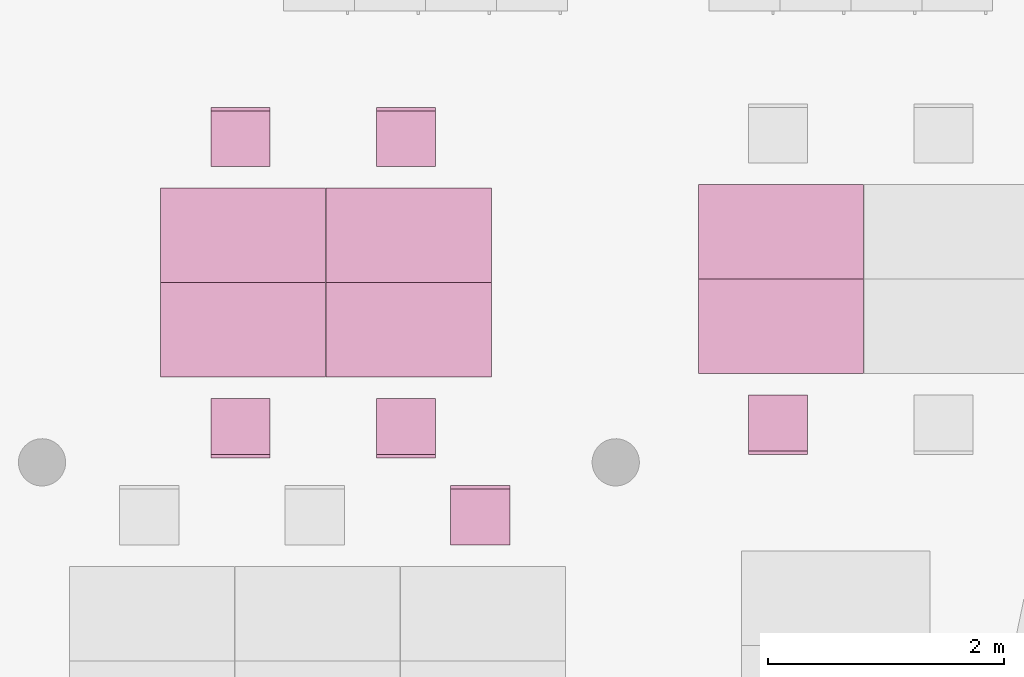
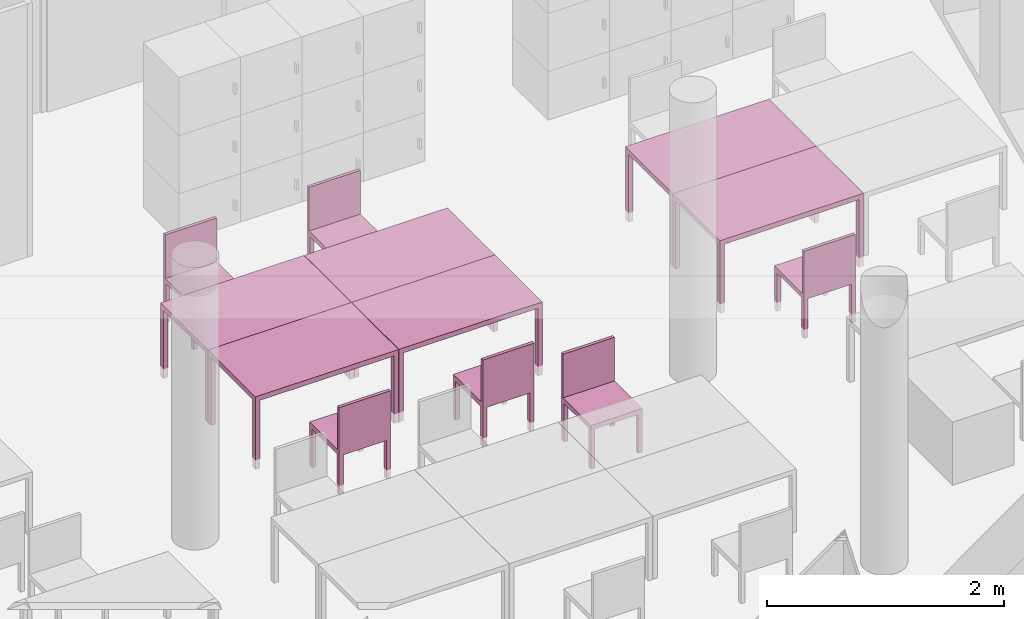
"""IFC4 building model written with IfcOpenShell, lengths in metres."""

from ifc_helpers import new_model, entity, si_unit, converted_unit, derived_unit, frame, origin, place, context, subcontext, project, spatial, faceted_brep, element, save


model = new_model("IFC4")

# Units and contexts
model_context = context("Model", 3, precision=1e-05, world=origin())
body_context = subcontext(model_context, "Body", "Model", "MODEL_VIEW")
ifc_project = project(units=[si_unit("LENGTHUNIT", "METRE"), si_unit("AREAUNIT", "SQUARE_METRE"), si_unit("VOLUMEUNIT", "CUBIC_METRE"), si_unit("MASSUNIT", "GRAM", prefix="KILO"), converted_unit("PLANEANGLEUNIT", "DEGREE", entity("IfcPlaneAngleMeasure", 0.0174532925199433), si_unit("PLANEANGLEUNIT", "RADIAN"), dimensions=[0, 0, 0, 0, 0, 0, 0]), derived_unit("THERMALTRANSMITTANCEUNIT", [(si_unit("POWERUNIT", "WATT"), 1), (si_unit("THERMODYNAMICTEMPERATUREUNIT", "KELVIN"), -1), (si_unit("LENGTHUNIT", "METRE"), -2)]), derived_unit("VOLUMETRICFLOWRATEUNIT", [(si_unit("LENGTHUNIT", "METRE"), 3), (converted_unit("TIMEUNIT", "hour", entity("IfcTimeMeasure", 3600.0), si_unit("TIMEUNIT", "SECOND"), dimensions=[0, 0, 1, 0, 0, 0, 0]), -1), (si_unit("LENGTHUNIT", "METRE"), -1)])], contexts=[model_context])

# Building, storeys
building_placement = place(None, origin())
building = spatial("IfcBuilding", under=ifc_project, at=building_placement, Name="HABITATGE PLURIFAMILIAR", CompositionType="ELEMENT")
storey_1_placement = place(building_placement, frame((0.0, 0.0, 15.28)))
storey_1 = spatial("IfcBuildingStorey", under=building, at=storey_1_placement, Name="PLANTA QUARTA", CompositionType="ELEMENT", Elevation=15.28)
storey_2_placement = place(storey_1_placement, frame((0.0, 0.0, 12.27)))
storey_2 = spatial("IfcBuildingStorey", under=storey_1, at=storey_2_placement, Name="NOU", CompositionType="PARTIAL")

# Furniture
furniture_1_placement = place(storey_2_placement, frame((417.140221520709, 18.520103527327, -12.3699999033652)))
element("IfcFurniture", 1, at=furniture_1_placement, inside=storey_2, Name="Taula 140X80_P4", context=body_context, shape_type="Brep", body=[
    faceted_brep([(0.04375, 0.750069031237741, 0.0), (0.04375, 0.800069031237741, 0.0), (0.0, 0.800069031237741, 0.0), (0.0, 0.750069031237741, 0.0), (0.04375, 0.800069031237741, 0.7), (0.04375, 0.750069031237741, 0.7), (0.0, 0.750069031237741, 0.7), (0.0, 0.800069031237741, 0.7)], [[[0, 1, 2, 3]], [[4, 5, 6, 7]], [[1, 0, 5, 4]], [[2, 1, 4, 7]], [[3, 2, 7, 6]], [[0, 3, 6, 5]]], orient=[[False], [False], [False], [False], [False], [False]]),
    faceted_brep([(0.04375, 0.0, 0.0), (0.04375, 0.05, 0.0), (0.0, 0.05, 0.0), (0.0, 0.0, 0.0), (0.04375, 0.05, 0.7), (0.04375, 0.0, 0.7), (0.0, 0.0, 0.7), (0.0, 0.05, 0.7)], [[[0, 1, 2, 3]], [[4, 5, 6, 7]], [[1, 0, 5, 4]], [[2, 1, 4, 7]], [[3, 2, 7, 6]], [[0, 3, 6, 5]]], orient=[[False], [False], [False], [False], [False], [False]]),
    faceted_brep([(1.39732768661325, 0.0, 0.7), (1.39732768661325, 0.800069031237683, 0.7), (0.0, 0.800069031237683, 0.7), (0.0, 0.0, 0.7), (1.39732768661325, 0.800069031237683, 0.75), (1.39732768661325, 0.0, 0.75), (0.0, 0.0, 0.75), (0.0, 0.800069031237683, 0.75)], [[[0, 1, 2, 3]], [[4, 5, 6, 7]], [[1, 0, 5, 4]], [[2, 1, 4, 7]], [[3, 2, 7, 6]], [[0, 3, 6, 5]]], orient=[[False], [False], [False], [False], [False], [False]]),
    faceted_brep([(1.39732768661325, 0.750069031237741, 0.0), (1.39732768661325, 0.800069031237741, 0.0), (1.35357768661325, 0.800069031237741, 0.0), (1.35357768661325, 0.750069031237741, 0.0), (1.39732768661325, 0.800069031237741, 0.7), (1.39732768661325, 0.750069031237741, 0.7), (1.35357768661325, 0.750069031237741, 0.7), (1.35357768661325, 0.800069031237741, 0.7)], [[[0, 1, 2, 3]], [[4, 5, 6, 7]], [[1, 0, 5, 4]], [[2, 1, 4, 7]], [[3, 2, 7, 6]], [[0, 3, 6, 5]]], orient=[[False], [False], [False], [False], [False], [False]]),
    faceted_brep([(1.39732768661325, 0.0, 0.0), (1.39732768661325, 0.05, 0.0), (1.35357768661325, 0.05, 0.0), (1.35357768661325, 0.0, 0.0), (1.39732768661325, 0.05, 0.7), (1.39732768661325, 0.0, 0.7), (1.35357768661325, 0.0, 0.7), (1.35357768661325, 0.05, 0.7)], [[[0, 1, 2, 3]], [[4, 5, 6, 7]], [[1, 0, 5, 4]], [[2, 1, 4, 7]], [[3, 2, 7, 6]], [[0, 3, 6, 5]]], orient=[[False], [False], [False], [False], [False], [False]]),
])
furniture_2_placement = place(storey_2_placement, frame((418.541400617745, 18.520103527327, -12.3699999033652)))
element("IfcFurniture", 2, at=furniture_2_placement, inside=storey_2, Name="Taula 140X80_P4", context=body_context, shape_type="Brep", body=[
    faceted_brep([(0.04375, 0.750069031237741, 0.0), (0.04375, 0.800069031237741, 0.0), (0.0, 0.800069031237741, 0.0), (0.0, 0.750069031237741, 0.0), (0.04375, 0.800069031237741, 0.7), (0.04375, 0.750069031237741, 0.7), (0.0, 0.750069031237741, 0.7), (0.0, 0.800069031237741, 0.7)], [[[0, 1, 2, 3]], [[4, 5, 6, 7]], [[1, 0, 5, 4]], [[2, 1, 4, 7]], [[3, 2, 7, 6]], [[0, 3, 6, 5]]], orient=[[False], [False], [False], [False], [False], [False]]),
    faceted_brep([(0.04375, 0.0, 0.0), (0.04375, 0.05, 0.0), (0.0, 0.05, 0.0), (0.0, 0.0, 0.0), (0.04375, 0.05, 0.7), (0.04375, 0.0, 0.7), (0.0, 0.0, 0.7), (0.0, 0.05, 0.7)], [[[0, 1, 2, 3]], [[4, 5, 6, 7]], [[1, 0, 5, 4]], [[2, 1, 4, 7]], [[3, 2, 7, 6]], [[0, 3, 6, 5]]], orient=[[False], [False], [False], [False], [False], [False]]),
    faceted_brep([(1.39732768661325, 0.0, 0.7), (1.39732768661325, 0.800069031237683, 0.7), (0.0, 0.800069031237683, 0.7), (0.0, 0.0, 0.7), (1.39732768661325, 0.800069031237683, 0.75), (1.39732768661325, 0.0, 0.75), (0.0, 0.0, 0.75), (0.0, 0.800069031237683, 0.75)], [[[0, 1, 2, 3]], [[4, 5, 6, 7]], [[1, 0, 5, 4]], [[2, 1, 4, 7]], [[3, 2, 7, 6]], [[0, 3, 6, 5]]], orient=[[False], [False], [False], [False], [False], [False]]),
    faceted_brep([(1.39732768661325, 0.750069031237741, 0.0), (1.39732768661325, 0.800069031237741, 0.0), (1.35357768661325, 0.800069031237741, 0.0), (1.35357768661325, 0.750069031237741, 0.0), (1.39732768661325, 0.800069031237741, 0.7), (1.39732768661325, 0.750069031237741, 0.7), (1.35357768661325, 0.750069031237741, 0.7), (1.35357768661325, 0.800069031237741, 0.7)], [[[0, 1, 2, 3]], [[4, 5, 6, 7]], [[1, 0, 5, 4]], [[2, 1, 4, 7]], [[3, 2, 7, 6]], [[0, 3, 6, 5]]], orient=[[False], [False], [False], [False], [False], [False]]),
    faceted_brep([(1.39732768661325, 0.0, 0.0), (1.39732768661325, 0.05, 0.0), (1.35357768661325, 0.05, 0.0), (1.35357768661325, 0.0, 0.0), (1.39732768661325, 0.05, 0.7), (1.39732768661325, 0.0, 0.7), (1.35357768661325, 0.0, 0.7), (1.35357768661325, 0.05, 0.7)], [[[0, 1, 2, 3]], [[4, 5, 6, 7]], [[1, 0, 5, 4]], [[2, 1, 4, 7]], [[3, 2, 7, 6]], [[0, 3, 6, 5]]], orient=[[False], [False], [False], [False], [False], [False]]),
])
furniture_3_placement = place(storey_2_placement, frame((418.541400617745, 19.3201725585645, -12.3699999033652)))
element("IfcFurniture", 3, at=furniture_3_placement, inside=storey_2, Name="Taula 140X80_P4", context=body_context, shape_type="Brep", body=[
    faceted_brep([(0.04375, 0.05, 0.0), (0.0, 0.05, 0.0), (0.0, 0.0, 0.0), (0.04375, 0.0, 0.0), (0.04375, 0.0, 0.7), (0.0, 0.0, 0.7), (0.0, 0.05, 0.7), (0.04375, 0.05, 0.7)], [[[0, 1, 2, 3]], [[4, 5, 6, 7]], [[3, 4, 7, 0]], [[2, 5, 4, 3]], [[1, 6, 5, 2]], [[0, 7, 6, 1]]], orient=[[False], [False], [False], [False], [False], [False]]),
    faceted_brep([(0.04375, 0.800069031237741, 0.0), (0.0, 0.800069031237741, 0.0), (0.0, 0.750069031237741, 0.0), (0.04375, 0.750069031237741, 0.0), (0.04375, 0.750069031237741, 0.7), (0.0, 0.750069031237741, 0.7), (0.0, 0.800069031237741, 0.7), (0.04375, 0.800069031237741, 0.7)], [[[0, 1, 2, 3]], [[4, 5, 6, 7]], [[3, 4, 7, 0]], [[2, 5, 4, 3]], [[1, 6, 5, 2]], [[0, 7, 6, 1]]], orient=[[False], [False], [False], [False], [False], [False]]),
    faceted_brep([(1.39732768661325, 0.800069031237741, 0.7), (0.0, 0.800069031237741, 0.7), (0.0, 0.0, 0.7), (1.39732768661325, 0.0, 0.7), (1.39732768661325, 0.0, 0.75), (0.0, 0.0, 0.75), (0.0, 0.800069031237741, 0.75), (1.39732768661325, 0.800069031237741, 0.75)], [[[0, 1, 2, 3]], [[4, 5, 6, 7]], [[3, 4, 7, 0]], [[2, 5, 4, 3]], [[1, 6, 5, 2]], [[0, 7, 6, 1]]], orient=[[False], [False], [False], [False], [False], [False]]),
    faceted_brep([(1.39732768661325, 0.05, 0.0), (1.35357768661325, 0.05, 0.0), (1.35357768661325, 0.0, 0.0), (1.39732768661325, 0.0, 0.0), (1.39732768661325, 0.0, 0.7), (1.35357768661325, 0.0, 0.7), (1.35357768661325, 0.05, 0.7), (1.39732768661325, 0.05, 0.7)], [[[0, 1, 2, 3]], [[4, 5, 6, 7]], [[3, 4, 7, 0]], [[2, 5, 4, 3]], [[1, 6, 5, 2]], [[0, 7, 6, 1]]], orient=[[False], [False], [False], [False], [False], [False]]),
    faceted_brep([(1.39732768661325, 0.800069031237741, 0.0), (1.35357768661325, 0.800069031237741, 0.0), (1.35357768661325, 0.750069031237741, 0.0), (1.39732768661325, 0.750069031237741, 0.0), (1.39732768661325, 0.750069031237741, 0.7), (1.35357768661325, 0.750069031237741, 0.7), (1.35357768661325, 0.800069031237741, 0.7), (1.39732768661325, 0.800069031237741, 0.7)], [[[0, 1, 2, 3]], [[4, 5, 6, 7]], [[3, 4, 7, 0]], [[2, 5, 4, 3]], [[1, 6, 5, 2]], [[0, 7, 6, 1]]], orient=[[False], [False], [False], [False], [False], [False]]),
])
furniture_4_placement = place(storey_2_placement, frame((417.140221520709, 19.3201725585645, -12.3699999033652)))
element("IfcFurniture", 4, at=furniture_4_placement, inside=storey_2, Name="Taula 140X80_P4", context=body_context, shape_type="Brep", body=[
    faceted_brep([(0.04375, 0.05, 0.0), (0.0, 0.05, 0.0), (0.0, 0.0, 0.0), (0.04375, 0.0, 0.0), (0.04375, 0.0, 0.7), (0.0, 0.0, 0.7), (0.0, 0.05, 0.7), (0.04375, 0.05, 0.7)], [[[0, 1, 2, 3]], [[4, 5, 6, 7]], [[3, 4, 7, 0]], [[2, 5, 4, 3]], [[1, 6, 5, 2]], [[0, 7, 6, 1]]], orient=[[False], [False], [False], [False], [False], [False]]),
    faceted_brep([(0.04375, 0.800069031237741, 0.0), (0.0, 0.800069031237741, 0.0), (0.0, 0.750069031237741, 0.0), (0.04375, 0.750069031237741, 0.0), (0.04375, 0.750069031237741, 0.7), (0.0, 0.750069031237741, 0.7), (0.0, 0.800069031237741, 0.7), (0.04375, 0.800069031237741, 0.7)], [[[0, 1, 2, 3]], [[4, 5, 6, 7]], [[3, 4, 7, 0]], [[2, 5, 4, 3]], [[1, 6, 5, 2]], [[0, 7, 6, 1]]], orient=[[False], [False], [False], [False], [False], [False]]),
    faceted_brep([(1.39732768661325, 0.800069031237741, 0.7), (0.0, 0.800069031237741, 0.7), (0.0, 0.0, 0.7), (1.39732768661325, 0.0, 0.7), (1.39732768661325, 0.0, 0.75), (0.0, 0.0, 0.75), (0.0, 0.800069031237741, 0.75), (1.39732768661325, 0.800069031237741, 0.75)], [[[0, 1, 2, 3]], [[4, 5, 6, 7]], [[3, 4, 7, 0]], [[2, 5, 4, 3]], [[1, 6, 5, 2]], [[0, 7, 6, 1]]], orient=[[False], [False], [False], [False], [False], [False]]),
    faceted_brep([(1.39732768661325, 0.05, 0.0), (1.35357768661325, 0.05, 0.0), (1.35357768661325, 0.0, 0.0), (1.39732768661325, 0.0, 0.0), (1.39732768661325, 0.0, 0.7), (1.35357768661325, 0.0, 0.7), (1.35357768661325, 0.05, 0.7), (1.39732768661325, 0.05, 0.7)], [[[0, 1, 2, 3]], [[4, 5, 6, 7]], [[3, 4, 7, 0]], [[2, 5, 4, 3]], [[1, 6, 5, 2]], [[0, 7, 6, 1]]], orient=[[False], [False], [False], [False], [False], [False]]),
    faceted_brep([(1.39732768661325, 0.800069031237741, 0.0), (1.35357768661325, 0.800069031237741, 0.0), (1.35357768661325, 0.750069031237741, 0.0), (1.39732768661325, 0.750069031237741, 0.0), (1.39732768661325, 0.750069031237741, 0.7), (1.35357768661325, 0.750069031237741, 0.7), (1.35357768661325, 0.800069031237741, 0.7), (1.39732768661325, 0.800069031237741, 0.7)], [[[0, 1, 2, 3]], [[4, 5, 6, 7]], [[3, 4, 7, 0]], [[2, 5, 4, 3]], [[1, 6, 5, 2]], [[0, 7, 6, 1]]], orient=[[False], [False], [False], [False], [False], [False]]),
])
furniture_5_placement = place(storey_2_placement, frame((421.690469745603, 18.5496367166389, -12.3699999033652)))
element("IfcFurniture", 5, at=furniture_5_placement, inside=storey_2, Name="Taula 140X80_P4", context=body_context, shape_type="Brep", body=[
    faceted_brep([(0.04375, 0.750069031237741, 0.0), (0.04375, 0.800069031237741, 0.0), (0.0, 0.800069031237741, 0.0), (0.0, 0.750069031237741, 0.0), (0.04375, 0.800069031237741, 0.7), (0.04375, 0.750069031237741, 0.7), (0.0, 0.750069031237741, 0.7), (0.0, 0.800069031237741, 0.7)], [[[0, 1, 2, 3]], [[4, 5, 6, 7]], [[1, 0, 5, 4]], [[2, 1, 4, 7]], [[3, 2, 7, 6]], [[0, 3, 6, 5]]], orient=[[False], [False], [False], [False], [False], [False]]),
    faceted_brep([(0.04375, 0.0, 0.0), (0.04375, 0.05, 0.0), (0.0, 0.05, 0.0), (0.0, 0.0, 0.0), (0.04375, 0.05, 0.7), (0.04375, 0.0, 0.7), (0.0, 0.0, 0.7), (0.0, 0.05, 0.7)], [[[0, 1, 2, 3]], [[4, 5, 6, 7]], [[1, 0, 5, 4]], [[2, 1, 4, 7]], [[3, 2, 7, 6]], [[0, 3, 6, 5]]], orient=[[False], [False], [False], [False], [False], [False]]),
    faceted_brep([(1.39732768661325, 0.0, 0.7), (1.39732768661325, 0.800069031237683, 0.7), (0.0, 0.800069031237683, 0.7), (0.0, 0.0, 0.7), (1.39732768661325, 0.800069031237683, 0.75), (1.39732768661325, 0.0, 0.75), (0.0, 0.0, 0.75), (0.0, 0.800069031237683, 0.75)], [[[0, 1, 2, 3]], [[4, 5, 6, 7]], [[1, 0, 5, 4]], [[2, 1, 4, 7]], [[3, 2, 7, 6]], [[0, 3, 6, 5]]], orient=[[False], [False], [False], [False], [False], [False]]),
    faceted_brep([(1.39732768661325, 0.750069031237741, 0.0), (1.39732768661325, 0.800069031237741, 0.0), (1.35357768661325, 0.800069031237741, 0.0), (1.35357768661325, 0.750069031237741, 0.0), (1.39732768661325, 0.800069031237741, 0.7), (1.39732768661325, 0.750069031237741, 0.7), (1.35357768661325, 0.750069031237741, 0.7), (1.35357768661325, 0.800069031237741, 0.7)], [[[0, 1, 2, 3]], [[4, 5, 6, 7]], [[1, 0, 5, 4]], [[2, 1, 4, 7]], [[3, 2, 7, 6]], [[0, 3, 6, 5]]], orient=[[False], [False], [False], [False], [False], [False]]),
    faceted_brep([(1.39732768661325, 0.0, 0.0), (1.39732768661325, 0.05, 0.0), (1.35357768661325, 0.05, 0.0), (1.35357768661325, 0.0, 0.0), (1.39732768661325, 0.05, 0.7), (1.39732768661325, 0.0, 0.7), (1.35357768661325, 0.0, 0.7), (1.35357768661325, 0.05, 0.7)], [[[0, 1, 2, 3]], [[4, 5, 6, 7]], [[1, 0, 5, 4]], [[2, 1, 4, 7]], [[3, 2, 7, 6]], [[0, 3, 6, 5]]], orient=[[False], [False], [False], [False], [False], [False]]),
])
furniture_6_placement = place(storey_2_placement, frame((421.690469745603, 19.3497057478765, -12.3699999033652)))
element("IfcFurniture", 6, at=furniture_6_placement, inside=storey_2, Name="Taula 140X80_P4", context=body_context, shape_type="Brep", body=[
    faceted_brep([(0.04375, 0.05, 0.0), (0.0, 0.05, 0.0), (0.0, 0.0, 0.0), (0.04375, 0.0, 0.0), (0.04375, 0.0, 0.7), (0.0, 0.0, 0.7), (0.0, 0.05, 0.7), (0.04375, 0.05, 0.7)], [[[0, 1, 2, 3]], [[4, 5, 6, 7]], [[3, 4, 7, 0]], [[2, 5, 4, 3]], [[1, 6, 5, 2]], [[0, 7, 6, 1]]], orient=[[False], [False], [False], [False], [False], [False]]),
    faceted_brep([(0.04375, 0.800069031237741, 0.0), (0.0, 0.800069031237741, 0.0), (0.0, 0.750069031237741, 0.0), (0.04375, 0.750069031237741, 0.0), (0.04375, 0.750069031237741, 0.7), (0.0, 0.750069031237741, 0.7), (0.0, 0.800069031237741, 0.7), (0.04375, 0.800069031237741, 0.7)], [[[0, 1, 2, 3]], [[4, 5, 6, 7]], [[3, 4, 7, 0]], [[2, 5, 4, 3]], [[1, 6, 5, 2]], [[0, 7, 6, 1]]], orient=[[False], [False], [False], [False], [False], [False]]),
    faceted_brep([(1.39732768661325, 0.800069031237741, 0.7), (0.0, 0.800069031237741, 0.7), (0.0, 0.0, 0.7), (1.39732768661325, 0.0, 0.7), (1.39732768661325, 0.0, 0.75), (0.0, 0.0, 0.75), (0.0, 0.800069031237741, 0.75), (1.39732768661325, 0.800069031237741, 0.75)], [[[0, 1, 2, 3]], [[4, 5, 6, 7]], [[3, 4, 7, 0]], [[2, 5, 4, 3]], [[1, 6, 5, 2]], [[0, 7, 6, 1]]], orient=[[False], [False], [False], [False], [False], [False]]),
    faceted_brep([(1.39732768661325, 0.05, 0.0), (1.35357768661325, 0.05, 0.0), (1.35357768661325, 0.0, 0.0), (1.39732768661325, 0.0, 0.0), (1.39732768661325, 0.0, 0.7), (1.35357768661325, 0.0, 0.7), (1.35357768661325, 0.05, 0.7), (1.39732768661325, 0.05, 0.7)], [[[0, 1, 2, 3]], [[4, 5, 6, 7]], [[3, 4, 7, 0]], [[2, 5, 4, 3]], [[1, 6, 5, 2]], [[0, 7, 6, 1]]], orient=[[False], [False], [False], [False], [False], [False]]),
    faceted_brep([(1.39732768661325, 0.800069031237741, 0.0), (1.35357768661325, 0.800069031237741, 0.0), (1.35357768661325, 0.750069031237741, 0.0), (1.39732768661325, 0.750069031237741, 0.0), (1.39732768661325, 0.750069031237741, 0.7), (1.35357768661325, 0.750069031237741, 0.7), (1.35357768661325, 0.800069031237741, 0.7), (1.39732768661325, 0.800069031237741, 0.7)], [[[0, 1, 2, 3]], [[4, 5, 6, 7]], [[3, 4, 7, 0]], [[2, 5, 4, 3]], [[1, 6, 5, 2]], [[0, 7, 6, 1]]], orient=[[False], [False], [False], [False], [False], [False]]),
])
furniture_7_placement = place(storey_2_placement, frame((419.595236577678, 17.1018108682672, -12.3640610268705)))
element("IfcFurniture", 7, at=furniture_7_placement, inside=storey_2, Name="Cadira d'Oficina_P4", context=body_context, shape_type="Brep", body=[
    faceted_brep([(0.5, 0.0, 0.399999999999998), (0.5, 0.500000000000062, 0.399999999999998), (0.0, 0.5, 0.399999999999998), (0.0, 0.0, 0.399999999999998), (0.5, 0.500000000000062, 0.449999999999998), (0.5, 0.0, 0.449999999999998), (0.0, 0.0, 0.449999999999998), (0.0, 0.5, 0.449999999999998)], [[[0, 1, 2, 3]], [[4, 5, 6, 7]], [[1, 0, 5, 4]], [[2, 1, 4, 7]], [[3, 2, 7, 6]], [[0, 3, 6, 5]]], orient=[[False], [False], [False], [False], [False], [False]]),
    faceted_brep([(0.0, 0.46, 0.0), (0.04, 0.46, 0.0), (0.04, 0.5, 0.0), (0.0, 0.5, 0.0), (0.04, 0.46, 0.4), (0.0, 0.46, 0.4), (0.0, 0.5, 0.4), (0.04, 0.5, 0.4)], [[[0, 1, 2, 3]], [[4, 5, 6, 7]], [[1, 0, 5, 4]], [[2, 1, 4, 7]], [[3, 2, 7, 6]], [[0, 3, 6, 5]]], orient=[[False], [False], [False], [False], [False], [False]]),
    faceted_brep([(0.0, 0.0, 0.0), (0.04, 0.0, 0.0), (0.04, 0.04, 0.0), (0.0, 0.04, 0.0), (0.04, 0.0, 0.4), (0.0, 0.0, 0.4), (0.0, 0.04, 0.4), (0.04, 0.04, 0.4)], [[[0, 1, 2, 3]], [[4, 5, 6, 7]], [[1, 0, 5, 4]], [[2, 1, 4, 7]], [[3, 2, 7, 6]], [[0, 3, 6, 5]]], orient=[[False], [False], [False], [False], [False], [False]]),
    faceted_brep([(0.46, 0.460000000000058, 0.0), (0.5, 0.460000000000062, 0.0), (0.5, 0.500000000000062, 0.0), (0.46, 0.500000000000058, 0.0), (0.5, 0.460000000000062, 0.4), (0.46, 0.460000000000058, 0.4), (0.46, 0.500000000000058, 0.4), (0.5, 0.500000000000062, 0.4)], [[[0, 1, 2, 3]], [[4, 5, 6, 7]], [[1, 0, 5, 4]], [[2, 1, 4, 7]], [[3, 2, 7, 6]], [[0, 3, 6, 5]]], orient=[[False], [False], [False], [False], [False], [False]]),
    faceted_brep([(0.46, 0.0, 0.0), (0.5, 0.0, 0.0), (0.5, 0.0400000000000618, 0.0), (0.46, 0.0400000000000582, 0.0), (0.5, 0.0, 0.4), (0.46, 0.0, 0.4), (0.46, 0.0400000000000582, 0.4), (0.5, 0.0400000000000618, 0.4)], [[[0, 1, 2, 3]], [[4, 5, 6, 7]], [[1, 0, 5, 4]], [[2, 1, 4, 7]], [[3, 2, 7, 6]], [[0, 3, 6, 5]]], orient=[[False], [False], [False], [False], [False], [False]]),
    faceted_brep([(0.0, 0.47, 0.45), (0.5, 0.470000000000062, 0.45), (0.5, 0.500000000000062, 0.45), (0.0, 0.5, 0.45), (0.5, 0.470000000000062, 0.9), (0.0, 0.47, 0.9), (0.0, 0.5, 0.9), (0.5, 0.500000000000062, 0.9)], [[[0, 1, 2, 3]], [[4, 5, 6, 7]], [[1, 0, 5, 4]], [[2, 1, 4, 7]], [[3, 2, 7, 6]], [[0, 3, 6, 5]]], orient=[[False], [False], [False], [False], [False], [False]]),
])
furniture_8_placement = place(storey_2_placement, frame((417.564912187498, 17.8378905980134, -12.3653305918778)))
element("IfcFurniture", 8, at=furniture_8_placement, inside=storey_2, Name="Cadira d'Oficina_P4", context=body_context, shape_type="Brep", body=[
    faceted_brep([(0.5, 0.5, 0.399999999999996), (0.0, 0.500000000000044, 0.399999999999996), (0.0, 0.0, 0.399999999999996), (0.5, 0.0, 0.399999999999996), (0.5, 0.0, 0.449999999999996), (0.0, 0.0, 0.449999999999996), (0.0, 0.500000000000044, 0.449999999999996), (0.5, 0.5, 0.449999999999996)], [[[0, 1, 2, 3]], [[4, 5, 6, 7]], [[3, 4, 7, 0]], [[2, 5, 4, 3]], [[1, 6, 5, 2]], [[0, 7, 6, 1]]], orient=[[False], [False], [False], [False], [False], [False]]),
    faceted_brep([(0.0, 0.0400000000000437, 0.0), (0.0, 0.0, 0.0), (0.04, 0.0, 0.0), (0.04, 0.0400000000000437, 0.0), (0.04, 0.0400000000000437, 0.4), (0.04, 0.0, 0.4), (0.0, 0.0, 0.4), (0.0, 0.0400000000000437, 0.4)], [[[0, 1, 2, 3]], [[4, 5, 6, 7]], [[3, 4, 7, 0]], [[2, 5, 4, 3]], [[1, 6, 5, 2]], [[0, 7, 6, 1]]], orient=[[False], [False], [False], [False], [False], [False]]),
    faceted_brep([(0.0, 0.500000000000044, 0.0), (0.0, 0.460000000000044, 0.0), (0.04, 0.460000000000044, 0.0), (0.04, 0.500000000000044, 0.0), (0.04, 0.500000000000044, 0.4), (0.04, 0.460000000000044, 0.4), (0.0, 0.460000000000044, 0.4), (0.0, 0.500000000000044, 0.4)], [[[0, 1, 2, 3]], [[4, 5, 6, 7]], [[3, 4, 7, 0]], [[2, 5, 4, 3]], [[1, 6, 5, 2]], [[0, 7, 6, 1]]], orient=[[False], [False], [False], [False], [False], [False]]),
    faceted_brep([(0.46, 0.04, 0.0), (0.46, 0.0, 0.0), (0.5, 0.0, 0.0), (0.5, 0.04, 0.0), (0.5, 0.04, 0.4), (0.5, 0.0, 0.4), (0.46, 0.0, 0.4), (0.46, 0.04, 0.4)], [[[0, 1, 2, 3]], [[4, 5, 6, 7]], [[3, 4, 7, 0]], [[2, 5, 4, 3]], [[1, 6, 5, 2]], [[0, 7, 6, 1]]], orient=[[False], [False], [False], [False], [False], [False]]),
    faceted_brep([(0.46, 0.5, 0.0), (0.46, 0.46, 0.0), (0.5, 0.46, 0.0), (0.5, 0.5, 0.0), (0.5, 0.5, 0.4), (0.5, 0.46, 0.4), (0.46, 0.46, 0.4), (0.46, 0.5, 0.4)], [[[0, 1, 2, 3]], [[4, 5, 6, 7]], [[3, 4, 7, 0]], [[2, 5, 4, 3]], [[1, 6, 5, 2]], [[0, 7, 6, 1]]], orient=[[False], [False], [False], [False], [False], [False]]),
    faceted_brep([(0.0, 0.0300000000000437, 0.45), (0.0, 0.0, 0.45), (0.5, 0.0, 0.45), (0.5, 0.03, 0.45), (0.5, 0.03, 0.9), (0.5, 0.0, 0.9), (0.0, 0.0, 0.9), (0.0, 0.0300000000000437, 0.9)], [[[0, 1, 2, 3]], [[4, 5, 6, 7]], [[3, 4, 7, 0]], [[2, 5, 4, 3]], [[1, 6, 5, 2]], [[0, 7, 6, 1]]], orient=[[False], [False], [False], [False], [False], [False]]),
])
furniture_9_placement = place(storey_2_placement, frame((418.966091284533, 17.8378905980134, -12.3653305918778)))
element("IfcFurniture", 9, at=furniture_9_placement, inside=storey_2, Name="Cadira d'Oficina_P4", context=body_context, shape_type="Brep", body=[
    faceted_brep([(0.5, 0.5, 0.399999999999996), (0.0, 0.500000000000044, 0.399999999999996), (0.0, 0.0, 0.399999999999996), (0.5, 0.0, 0.399999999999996), (0.5, 0.0, 0.449999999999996), (0.0, 0.0, 0.449999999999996), (0.0, 0.500000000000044, 0.449999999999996), (0.5, 0.5, 0.449999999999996)], [[[0, 1, 2, 3]], [[4, 5, 6, 7]], [[3, 4, 7, 0]], [[2, 5, 4, 3]], [[1, 6, 5, 2]], [[0, 7, 6, 1]]], orient=[[False], [False], [False], [False], [False], [False]]),
    faceted_brep([(0.0, 0.0400000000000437, 0.0), (0.0, 0.0, 0.0), (0.04, 0.0, 0.0), (0.04, 0.0400000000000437, 0.0), (0.04, 0.0400000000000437, 0.4), (0.04, 0.0, 0.4), (0.0, 0.0, 0.4), (0.0, 0.0400000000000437, 0.4)], [[[0, 1, 2, 3]], [[4, 5, 6, 7]], [[3, 4, 7, 0]], [[2, 5, 4, 3]], [[1, 6, 5, 2]], [[0, 7, 6, 1]]], orient=[[False], [False], [False], [False], [False], [False]]),
    faceted_brep([(0.0, 0.500000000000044, 0.0), (0.0, 0.460000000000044, 0.0), (0.04, 0.460000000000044, 0.0), (0.04, 0.500000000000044, 0.0), (0.04, 0.500000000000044, 0.4), (0.04, 0.460000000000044, 0.4), (0.0, 0.460000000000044, 0.4), (0.0, 0.500000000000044, 0.4)], [[[0, 1, 2, 3]], [[4, 5, 6, 7]], [[3, 4, 7, 0]], [[2, 5, 4, 3]], [[1, 6, 5, 2]], [[0, 7, 6, 1]]], orient=[[False], [False], [False], [False], [False], [False]]),
    faceted_brep([(0.46, 0.04, 0.0), (0.46, 0.0, 0.0), (0.5, 0.0, 0.0), (0.5, 0.04, 0.0), (0.5, 0.04, 0.4), (0.5, 0.0, 0.4), (0.46, 0.0, 0.4), (0.46, 0.04, 0.4)], [[[0, 1, 2, 3]], [[4, 5, 6, 7]], [[3, 4, 7, 0]], [[2, 5, 4, 3]], [[1, 6, 5, 2]], [[0, 7, 6, 1]]], orient=[[False], [False], [False], [False], [False], [False]]),
    faceted_brep([(0.46, 0.5, 0.0), (0.46, 0.46, 0.0), (0.5, 0.46, 0.0), (0.5, 0.5, 0.0), (0.5, 0.5, 0.4), (0.5, 0.46, 0.4), (0.46, 0.46, 0.4), (0.46, 0.5, 0.4)], [[[0, 1, 2, 3]], [[4, 5, 6, 7]], [[3, 4, 7, 0]], [[2, 5, 4, 3]], [[1, 6, 5, 2]], [[0, 7, 6, 1]]], orient=[[False], [False], [False], [False], [False], [False]]),
    faceted_brep([(0.0, 0.0300000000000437, 0.45), (0.0, 0.0, 0.45), (0.5, 0.0, 0.45), (0.5, 0.03, 0.45), (0.5, 0.03, 0.9), (0.5, 0.0, 0.9), (0.0, 0.0, 0.9), (0.0, 0.0300000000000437, 0.9)], [[[0, 1, 2, 3]], [[4, 5, 6, 7]], [[3, 4, 7, 0]], [[2, 5, 4, 3]], [[1, 6, 5, 2]], [[0, 7, 6, 1]]], orient=[[False], [False], [False], [False], [False], [False]]),
])
furniture_10_placement = place(storey_2_placement, frame((418.966091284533, 20.3024545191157, -12.3640610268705)))
element("IfcFurniture", 10, at=furniture_10_placement, inside=storey_2, Name="Cadira d'Oficina_P4", context=body_context, shape_type="Brep", body=[
    faceted_brep([(0.5, 0.0, 0.399999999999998), (0.5, 0.500000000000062, 0.399999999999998), (0.0, 0.5, 0.399999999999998), (0.0, 0.0, 0.399999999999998), (0.5, 0.500000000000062, 0.449999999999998), (0.5, 0.0, 0.449999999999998), (0.0, 0.0, 0.449999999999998), (0.0, 0.5, 0.449999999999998)], [[[0, 1, 2, 3]], [[4, 5, 6, 7]], [[1, 0, 5, 4]], [[2, 1, 4, 7]], [[3, 2, 7, 6]], [[0, 3, 6, 5]]], orient=[[False], [False], [False], [False], [False], [False]]),
    faceted_brep([(0.0, 0.46, 0.0), (0.04, 0.46, 0.0), (0.04, 0.5, 0.0), (0.0, 0.5, 0.0), (0.04, 0.46, 0.4), (0.0, 0.46, 0.4), (0.0, 0.5, 0.4), (0.04, 0.5, 0.4)], [[[0, 1, 2, 3]], [[4, 5, 6, 7]], [[1, 0, 5, 4]], [[2, 1, 4, 7]], [[3, 2, 7, 6]], [[0, 3, 6, 5]]], orient=[[False], [False], [False], [False], [False], [False]]),
    faceted_brep([(0.0, 0.0, 0.0), (0.04, 0.0, 0.0), (0.04, 0.04, 0.0), (0.0, 0.04, 0.0), (0.04, 0.0, 0.4), (0.0, 0.0, 0.4), (0.0, 0.04, 0.4), (0.04, 0.04, 0.4)], [[[0, 1, 2, 3]], [[4, 5, 6, 7]], [[1, 0, 5, 4]], [[2, 1, 4, 7]], [[3, 2, 7, 6]], [[0, 3, 6, 5]]], orient=[[False], [False], [False], [False], [False], [False]]),
    faceted_brep([(0.46, 0.460000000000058, 0.0), (0.5, 0.460000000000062, 0.0), (0.5, 0.500000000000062, 0.0), (0.46, 0.500000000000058, 0.0), (0.5, 0.460000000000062, 0.4), (0.46, 0.460000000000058, 0.4), (0.46, 0.500000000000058, 0.4), (0.5, 0.500000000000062, 0.4)], [[[0, 1, 2, 3]], [[4, 5, 6, 7]], [[1, 0, 5, 4]], [[2, 1, 4, 7]], [[3, 2, 7, 6]], [[0, 3, 6, 5]]], orient=[[False], [False], [False], [False], [False], [False]]),
    faceted_brep([(0.46, 0.0, 0.0), (0.5, 0.0, 0.0), (0.5, 0.0400000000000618, 0.0), (0.46, 0.0400000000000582, 0.0), (0.5, 0.0, 0.4), (0.46, 0.0, 0.4), (0.46, 0.0400000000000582, 0.4), (0.5, 0.0400000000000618, 0.4)], [[[0, 1, 2, 3]], [[4, 5, 6, 7]], [[1, 0, 5, 4]], [[2, 1, 4, 7]], [[3, 2, 7, 6]], [[0, 3, 6, 5]]], orient=[[False], [False], [False], [False], [False], [False]]),
    faceted_brep([(0.0, 0.47, 0.45), (0.5, 0.470000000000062, 0.45), (0.5, 0.500000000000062, 0.45), (0.0, 0.5, 0.45), (0.5, 0.470000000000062, 0.9), (0.0, 0.47, 0.9), (0.0, 0.5, 0.9), (0.5, 0.500000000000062, 0.9)], [[[0, 1, 2, 3]], [[4, 5, 6, 7]], [[1, 0, 5, 4]], [[2, 1, 4, 7]], [[3, 2, 7, 6]], [[0, 3, 6, 5]]], orient=[[False], [False], [False], [False], [False], [False]]),
])
furniture_11_placement = place(storey_2_placement, frame((417.564912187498, 20.3024545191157, -12.3640610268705)))
element("IfcFurniture", 11, at=furniture_11_placement, inside=storey_2, Name="Cadira d'Oficina_P4", context=body_context, shape_type="Brep", body=[
    faceted_brep([(0.5, 0.0, 0.399999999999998), (0.5, 0.500000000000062, 0.399999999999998), (0.0, 0.5, 0.399999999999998), (0.0, 0.0, 0.399999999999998), (0.5, 0.500000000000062, 0.449999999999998), (0.5, 0.0, 0.449999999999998), (0.0, 0.0, 0.449999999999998), (0.0, 0.5, 0.449999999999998)], [[[0, 1, 2, 3]], [[4, 5, 6, 7]], [[1, 0, 5, 4]], [[2, 1, 4, 7]], [[3, 2, 7, 6]], [[0, 3, 6, 5]]], orient=[[False], [False], [False], [False], [False], [False]]),
    faceted_brep([(0.0, 0.46, 0.0), (0.04, 0.46, 0.0), (0.04, 0.5, 0.0), (0.0, 0.5, 0.0), (0.04, 0.46, 0.4), (0.0, 0.46, 0.4), (0.0, 0.5, 0.4), (0.04, 0.5, 0.4)], [[[0, 1, 2, 3]], [[4, 5, 6, 7]], [[1, 0, 5, 4]], [[2, 1, 4, 7]], [[3, 2, 7, 6]], [[0, 3, 6, 5]]], orient=[[False], [False], [False], [False], [False], [False]]),
    faceted_brep([(0.0, 0.0, 0.0), (0.04, 0.0, 0.0), (0.04, 0.04, 0.0), (0.0, 0.04, 0.0), (0.04, 0.0, 0.4), (0.0, 0.0, 0.4), (0.0, 0.04, 0.4), (0.04, 0.04, 0.4)], [[[0, 1, 2, 3]], [[4, 5, 6, 7]], [[1, 0, 5, 4]], [[2, 1, 4, 7]], [[3, 2, 7, 6]], [[0, 3, 6, 5]]], orient=[[False], [False], [False], [False], [False], [False]]),
    faceted_brep([(0.46, 0.460000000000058, 0.0), (0.5, 0.460000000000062, 0.0), (0.5, 0.500000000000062, 0.0), (0.46, 0.500000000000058, 0.0), (0.5, 0.460000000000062, 0.4), (0.46, 0.460000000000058, 0.4), (0.46, 0.500000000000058, 0.4), (0.5, 0.500000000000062, 0.4)], [[[0, 1, 2, 3]], [[4, 5, 6, 7]], [[1, 0, 5, 4]], [[2, 1, 4, 7]], [[3, 2, 7, 6]], [[0, 3, 6, 5]]], orient=[[False], [False], [False], [False], [False], [False]]),
    faceted_brep([(0.46, 0.0, 0.0), (0.5, 0.0, 0.0), (0.5, 0.0400000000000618, 0.0), (0.46, 0.0400000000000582, 0.0), (0.5, 0.0, 0.4), (0.46, 0.0, 0.4), (0.46, 0.0400000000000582, 0.4), (0.5, 0.0400000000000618, 0.4)], [[[0, 1, 2, 3]], [[4, 5, 6, 7]], [[1, 0, 5, 4]], [[2, 1, 4, 7]], [[3, 2, 7, 6]], [[0, 3, 6, 5]]], orient=[[False], [False], [False], [False], [False], [False]]),
    faceted_brep([(0.0, 0.47, 0.45), (0.5, 0.470000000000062, 0.45), (0.5, 0.500000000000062, 0.45), (0.0, 0.5, 0.45), (0.5, 0.470000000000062, 0.9), (0.0, 0.47, 0.9), (0.0, 0.5, 0.9), (0.5, 0.500000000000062, 0.9)], [[[0, 1, 2, 3]], [[4, 5, 6, 7]], [[1, 0, 5, 4]], [[2, 1, 4, 7]], [[3, 2, 7, 6]], [[0, 3, 6, 5]]], orient=[[False], [False], [False], [False], [False], [False]]),
])
furniture_12_placement = place(storey_2_placement, frame((422.115160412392, 17.8674237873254, -12.3653305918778)))
element("IfcFurniture", 12, at=furniture_12_placement, inside=storey_2, Name="Cadira d'Oficina_P4", context=body_context, shape_type="Brep", body=[
    faceted_brep([(0.5, 0.5, 0.399999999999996), (0.0, 0.500000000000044, 0.399999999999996), (0.0, 0.0, 0.399999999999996), (0.5, 0.0, 0.399999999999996), (0.5, 0.0, 0.449999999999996), (0.0, 0.0, 0.449999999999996), (0.0, 0.500000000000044, 0.449999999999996), (0.5, 0.5, 0.449999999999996)], [[[0, 1, 2, 3]], [[4, 5, 6, 7]], [[3, 4, 7, 0]], [[2, 5, 4, 3]], [[1, 6, 5, 2]], [[0, 7, 6, 1]]], orient=[[False], [False], [False], [False], [False], [False]]),
    faceted_brep([(0.0, 0.0400000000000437, 0.0), (0.0, 0.0, 0.0), (0.04, 0.0, 0.0), (0.04, 0.0400000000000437, 0.0), (0.04, 0.0400000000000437, 0.4), (0.04, 0.0, 0.4), (0.0, 0.0, 0.4), (0.0, 0.0400000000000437, 0.4)], [[[0, 1, 2, 3]], [[4, 5, 6, 7]], [[3, 4, 7, 0]], [[2, 5, 4, 3]], [[1, 6, 5, 2]], [[0, 7, 6, 1]]], orient=[[False], [False], [False], [False], [False], [False]]),
    faceted_brep([(0.0, 0.500000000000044, 0.0), (0.0, 0.460000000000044, 0.0), (0.04, 0.460000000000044, 0.0), (0.04, 0.500000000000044, 0.0), (0.04, 0.500000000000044, 0.4), (0.04, 0.460000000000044, 0.4), (0.0, 0.460000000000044, 0.4), (0.0, 0.500000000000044, 0.4)], [[[0, 1, 2, 3]], [[4, 5, 6, 7]], [[3, 4, 7, 0]], [[2, 5, 4, 3]], [[1, 6, 5, 2]], [[0, 7, 6, 1]]], orient=[[False], [False], [False], [False], [False], [False]]),
    faceted_brep([(0.46, 0.04, 0.0), (0.46, 0.0, 0.0), (0.5, 0.0, 0.0), (0.5, 0.04, 0.0), (0.5, 0.04, 0.4), (0.5, 0.0, 0.4), (0.46, 0.0, 0.4), (0.46, 0.04, 0.4)], [[[0, 1, 2, 3]], [[4, 5, 6, 7]], [[3, 4, 7, 0]], [[2, 5, 4, 3]], [[1, 6, 5, 2]], [[0, 7, 6, 1]]], orient=[[False], [False], [False], [False], [False], [False]]),
    faceted_brep([(0.46, 0.5, 0.0), (0.46, 0.46, 0.0), (0.5, 0.46, 0.0), (0.5, 0.5, 0.0), (0.5, 0.5, 0.4), (0.5, 0.46, 0.4), (0.46, 0.46, 0.4), (0.46, 0.5, 0.4)], [[[0, 1, 2, 3]], [[4, 5, 6, 7]], [[3, 4, 7, 0]], [[2, 5, 4, 3]], [[1, 6, 5, 2]], [[0, 7, 6, 1]]], orient=[[False], [False], [False], [False], [False], [False]]),
    faceted_brep([(0.0, 0.0300000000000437, 0.45), (0.0, 0.0, 0.45), (0.5, 0.0, 0.45), (0.5, 0.03, 0.45), (0.5, 0.03, 0.9), (0.5, 0.0, 0.9), (0.0, 0.0, 0.9), (0.0, 0.0300000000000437, 0.9)], [[[0, 1, 2, 3]], [[4, 5, 6, 7]], [[3, 4, 7, 0]], [[2, 5, 4, 3]], [[1, 6, 5, 2]], [[0, 7, 6, 1]]], orient=[[False], [False], [False], [False], [False], [False]]),
])

save(model, "model.ifc")
